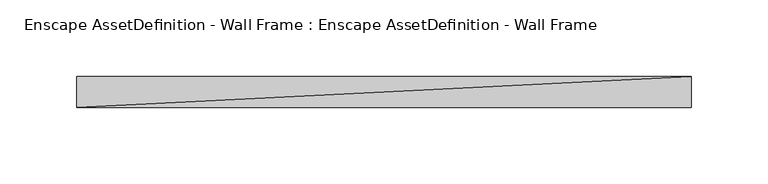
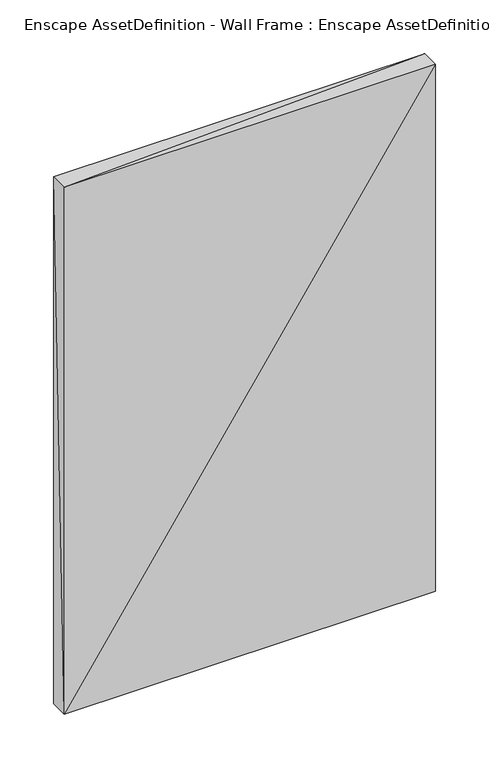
"""IFC4 building model written with IfcOpenShell, lengths in millimetres: geographic element geometry, Enscape AssetDefinition - Wall Frame : Enscape AssetDefinition - Wall Frame."""

from ifc_helpers import new_model, si_unit, origin, place, context, project, spatial, faceted_brep, source, transform, mapped, element, save


def enscape_assetdefinition_wall_frame_enscape_assetdefinition_9bfa83ed(model_context):
    return source(origin(), model_context, "Body", "Brep", [
        faceted_brep([(200.0000179, 3.56e-05, 0.0), (-200.0000179, 3.56e-05, 0.0), (200.0000179, -6.22e-05, 600.0000238), (-200.0000179, -20.0000927, 600.0000238), (-200.0000179, -19.9999921, 0.0), (200.0000179, -20.0000871, 600.0000238), (200.0000179, -19.9999921, 0.0), (-200.0000179, -6.22e-05, 600.0000238)], [[[0, 1, 2]], [[3, 4, 5]], [[4, 1, 6]], [[6, 0, 5]], [[5, 2, 3]], [[3, 7, 4]], [[2, 1, 7]], [[5, 4, 6]], [[6, 1, 0]], [[5, 0, 2]], [[3, 2, 7]], [[4, 7, 1]]]),
    ])


if __name__ == "__main__":
    model = new_model("IFC4")
    model_context = context("Model", 3, world=origin())
    ifc_project = project(units=[si_unit("LENGTHUNIT", "METRE", prefix="MILLI")], contexts=[model_context])
    site = spatial("IfcSite", under=ifc_project)
    building = spatial("IfcBuilding", under=site)
    placement = place(None, origin())
    enscape_assetdefinition_wall_frame_enscape_assetdefinition_shape = enscape_assetdefinition_wall_frame_enscape_assetdefinition_9bfa83ed(model_context)
    element("IfcGeographicElement", 1, ObjectType="Enscape AssetDefinition - Wall Frame : Enscape AssetDefinition - Wall Frame", at=placement, inside=building, context=model_context, shape_type="MappedRepresentation", body=[
        mapped(enscape_assetdefinition_wall_frame_enscape_assetdefinition_shape, transform((0.0, 0.0, 0.0), x_axis=(1.0, 0.0, 0.0), y_axis=(0.0, 1.0, 0.0), z_axis=(0.0, 0.0, 1.0))),
    ])
    save(model, "model.ifc")
